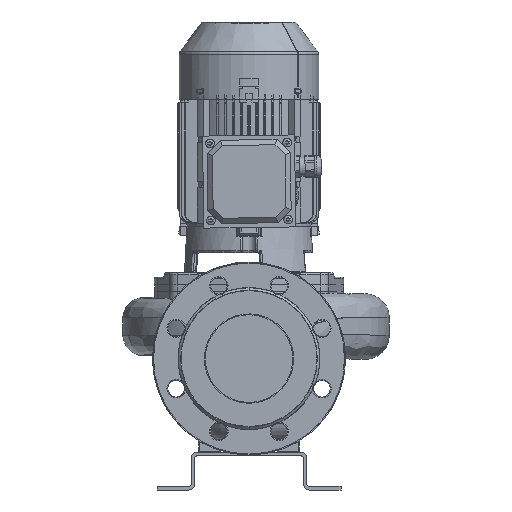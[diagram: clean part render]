
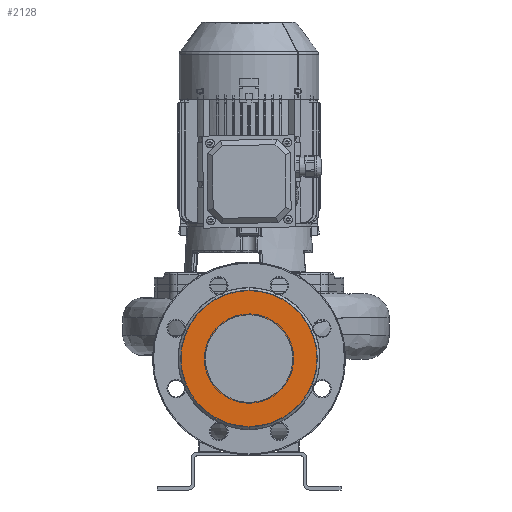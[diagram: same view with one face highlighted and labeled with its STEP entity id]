
A CAD part, front view. The second image highlights one B-rep face of the part: STEP entity #2128.
In plain terms, the highlighted planar face has unit normal (0, -1, 0) as drawn and (0, 1, 0) by its records, which use the part's own axes.
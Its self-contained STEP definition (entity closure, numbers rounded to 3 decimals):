
#2128=ADVANCED_FACE('',(#4574,#4575),#4576,.T.);
#2524=EDGE_CURVE('',#5247,#5248,#5249,.T.);
#2586=EDGE_CURVE('',#5359,#5360,#5361,.T.);
#2782=EDGE_CURVE('',#5360,#5359,#5648,.T.);
#2858=EDGE_CURVE('',#5248,#5247,#5734,.T.);
#4574=FACE_BOUND('',#11644,.T.);
#4575=FACE_OUTER_BOUND('',#11645,.T.);
#4576=PLANE('',#11646);
#5247=VERTEX_POINT('',#14919);
#5248=VERTEX_POINT('',#14920);
#5249=CIRCLE('',#14921,78.);
#5359=VERTEX_POINT('',#15099);
#5360=VERTEX_POINT('',#15100);
#5361=CIRCLE('',#15101,50.);
#5648=CIRCLE('',#15604,50.);
#5734=CIRCLE('',#15785,78.);
#11644=EDGE_LOOP('',(#24747,#24748));
#11645=EDGE_LOOP('',(#24749,#24750));
#11646=AXIS2_PLACEMENT_3D('',#24751,#24752,#24753);
#14919=CARTESIAN_POINT('',(0.,225.,-114.5));
#14920=CARTESIAN_POINT('',(0.,225.0,41.5));
#14921=AXIS2_PLACEMENT_3D('',#27472,#27473,#27474);
#15099=CARTESIAN_POINT('',(19.004,225.0,-82.748));
#15100=CARTESIAN_POINT('',(-19.004,225.0,9.748));
#15101=AXIS2_PLACEMENT_3D('',#27551,#27552,#27553);
#15604=AXIS2_PLACEMENT_3D('',#27801,#27802,#27803);
#15785=AXIS2_PLACEMENT_3D('',#27898,#27899,#27900);
#24747=ORIENTED_EDGE('',*,*,#2586,.T.);
#24748=ORIENTED_EDGE('',*,*,#2782,.T.);
#24749=ORIENTED_EDGE('',*,*,#2524,.F.);
#24750=ORIENTED_EDGE('',*,*,#2858,.F.);
#24751=CARTESIAN_POINT('',(53.194,225.0,-4.65));
#24752=DIRECTION('',(0.0,1.0,0.0));
#24753=DIRECTION('',(0.0,0.0,1.0));
#27472=CARTESIAN_POINT('',(0.,225.0,-36.5));
#27473=DIRECTION('',(0.0,-1.0,0.0));
#27474=DIRECTION('',(0.,0.0,-1.0));
#27551=CARTESIAN_POINT('',(0.0,225.0,-36.5));
#27552=DIRECTION('',(0.0,-1.0,0.0));
#27553=DIRECTION('',(0.38,0.0,-0.925));
#27801=CARTESIAN_POINT('',(0.0,225.0,-36.5));
#27802=DIRECTION('',(0.0,-1.0,0.0));
#27803=DIRECTION('',(0.38,0.0,-0.925));
#27898=CARTESIAN_POINT('',(0.,225.0,-36.5));
#27899=DIRECTION('',(0.0,-1.0,0.0));
#27900=DIRECTION('',(0.,0.0,-1.0));
